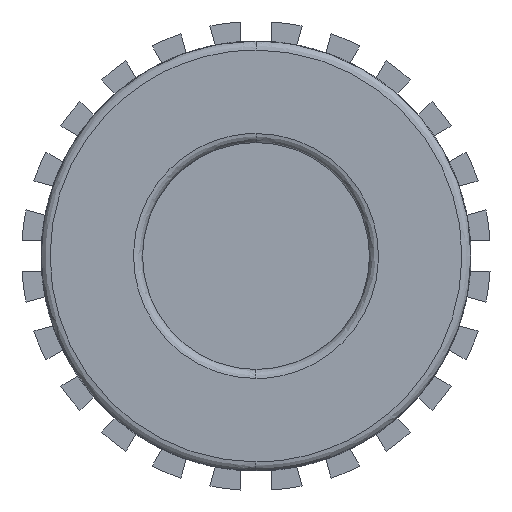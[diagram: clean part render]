
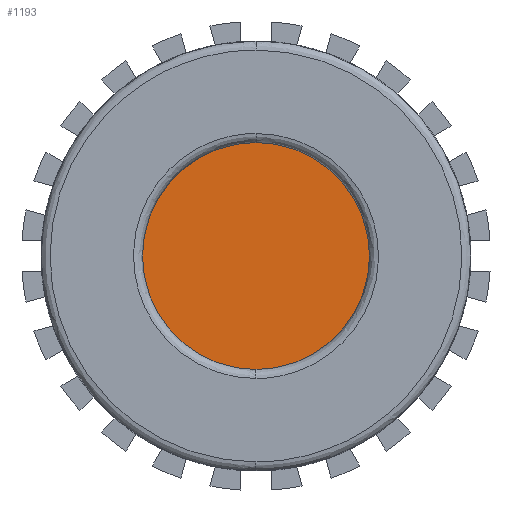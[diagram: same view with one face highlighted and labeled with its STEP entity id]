
A CAD part, left-side view. The second image highlights one B-rep face of the part: STEP entity #1193.
In plain terms, the highlighted planar face has unit normal (-1, 0, 0).
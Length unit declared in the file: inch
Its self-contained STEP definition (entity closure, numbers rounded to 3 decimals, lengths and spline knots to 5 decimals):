
#211 = CARTESIAN_POINT ( 'NONE',  ( -5.68239, -0.03739, 0. ) ) ;
#258 = CARTESIAN_POINT ( 'NONE',  ( -5.68239, 0.96928, 0. ) ) ;
#446 = AXIS2_PLACEMENT_3D ( 'NONE', #4333, #4334, #4335 ) ;
#456 = AXIS2_PLACEMENT_3D ( 'NONE', #4339, #4340, #4341 ) ;
#614 = EDGE_CURVE ( 'NONE', #4384, #4226, #2832, .T. ) ;
#618 = EDGE_CURVE ( 'NONE', #4226, #4384, #2833, .T. ) ;
#944 = AXIS2_PLACEMENT_3D ( 'NONE', #3117, #3122, #3123 ) ;
#1193 = ADVANCED_FACE ( 'NONE', ( #3988 ), #3115, .F. ) ;
#2300 = ORIENTED_EDGE ( 'NONE', *, *, #618, .F. ) ;
#2305 = ORIENTED_EDGE ( 'NONE', *, *, #614, .F. ) ;
#2644 = EDGE_LOOP ( 'NONE', ( #2300, #2305 ) ) ;
#2832 = CIRCLE ( 'NONE', #446, 0.50333 ) ;
#2833 = CIRCLE ( 'NONE', #456, 0.50333 ) ;
#3115 = PLANE ( 'NONE',  #944 ) ;
#3117 = CARTESIAN_POINT ( 'NONE',  ( -5.68239, 0.46595, 0. ) ) ;
#3122 = DIRECTION ( 'NONE',  ( 1., 0., 0. ) ) ;
#3123 = DIRECTION ( 'NONE',  ( 0., 0., -1. ) ) ;
#3988 = FACE_OUTER_BOUND ( 'NONE', #2644, .T. ) ;
#4226 = VERTEX_POINT ( 'NONE', #211 ) ;
#4333 = CARTESIAN_POINT ( 'NONE',  ( -5.68239, 0.46595, 0. ) ) ;
#4334 = DIRECTION ( 'NONE',  ( 1., 0., 0. ) ) ;
#4335 = DIRECTION ( 'NONE',  ( 0., -1., 0. ) ) ;
#4339 = CARTESIAN_POINT ( 'NONE',  ( -5.68239, 0.46595, 0. ) ) ;
#4340 = DIRECTION ( 'NONE',  ( 1., 0., 0. ) ) ;
#4341 = DIRECTION ( 'NONE',  ( 0., -1., 0. ) ) ;
#4384 = VERTEX_POINT ( 'NONE', #258 ) ;
